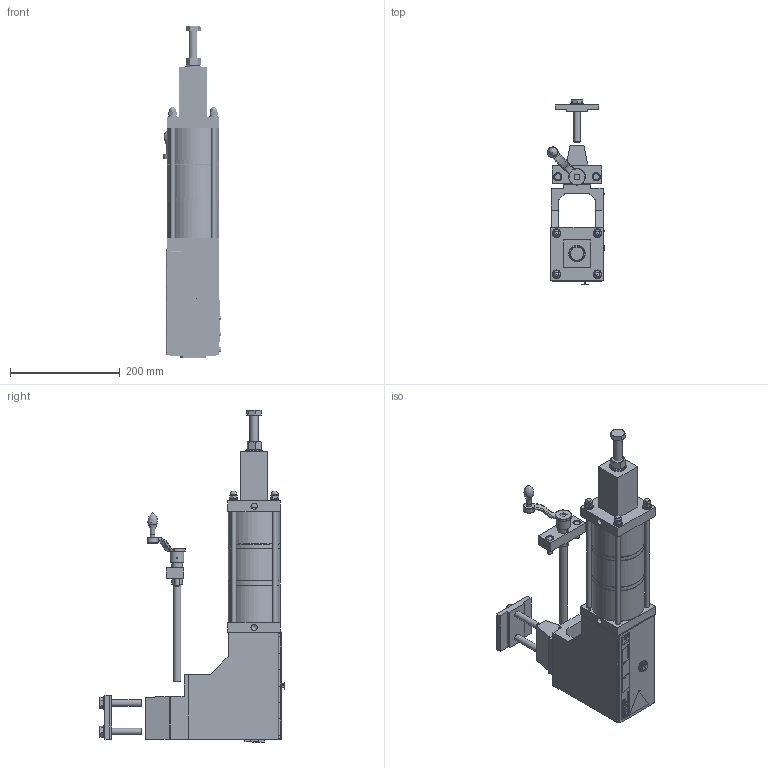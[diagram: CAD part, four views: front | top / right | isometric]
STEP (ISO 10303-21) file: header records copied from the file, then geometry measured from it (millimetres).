
FILE_DESCRIPTION(/* description */ (''),/* implementation_level */ '2;1');
FILE_NAME(/* name */ 'P:\Transfer Test\LP\Pressen_LP\LP Presseinheiten\PEH LP 12kN Hub40 G0400.stp',/* time_stamp */ '2020-11-12T11:40:02+01:00',/* author */ ('gsp'),/* organization */ (''),/* preprocessor_version */ 'ST-DEVELOPER v18',/* originating_system */ 'Autodesk Inventor 2020',/* authorisation */ '');
FILE_SCHEMA (('AUTOMOTIVE_DESIGN { 1 0 10303 214 3 1 1 }'));
Products named in the file (6): PEH LP 12kN Hub40 G0400; Spannplatte G0400; Führungseinheit_LP G0400_ohne_Schlitten_ANR17721; Schlittendummy_LP_G0400_ANR32652; LP_Zylinder_12kN_Hub40_ANR17776; Stellspindel G0400
Assembly tree (5 placements, depth 2):
  PEH LP 12kN Hub40 G0400
    Spannplatte G0400
    Führungseinheit_LP G0400_ohne_Schlitten_ANR17721
    Schlittendummy_LP_G0400_ANR32652
    LP_Zylinder_12kN_Hub40_ANR17776
    Stellspindel G0400
Bounding box: 105.22 x 337.54 x 605.5 mm (x, y, z)
Volume: 5108021.1 mm3; surface area: 763881.8 mm2
Topology: 98 solids, 108 shells, 6770 faces, 18220 edges, 12184 vertices
Faces by surface type: plane 3495, bspline 2523, cylinder 438, cone 246, torus 60, sphere 8
Full cylindrical faces by diameter (mm): 1.5 x8, 2 x12, 2.1 x4, 2.459 x4, 3 x4, 3.242 x4, 3.5 x2, 4 x16, 4.134 x13, 4.2 x4, 4.5 x8, 4.917 x7, 5 x10, 5.1 x4, 5.3 x2, 5.5 x5, 6 x15, 6.25 x4, 6.4 x4, 6.5 x1, 6.6 x6, 6.647 x4, 6.917 x1, 7 x2, 7.3 x4, 7.53 x8, 8 x7, 8.376 x2, 8.4 x8, 8.5 x7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
Entity records: 231035 total; most frequent: CARTESIAN_POINT 70857, ORIENTED_EDGE 36284, DIRECTION 22849, EDGE_CURVE 18142, VERTEX_POINT 12184, LINE 10887, VECTOR 10887, EDGE_LOOP 7591
